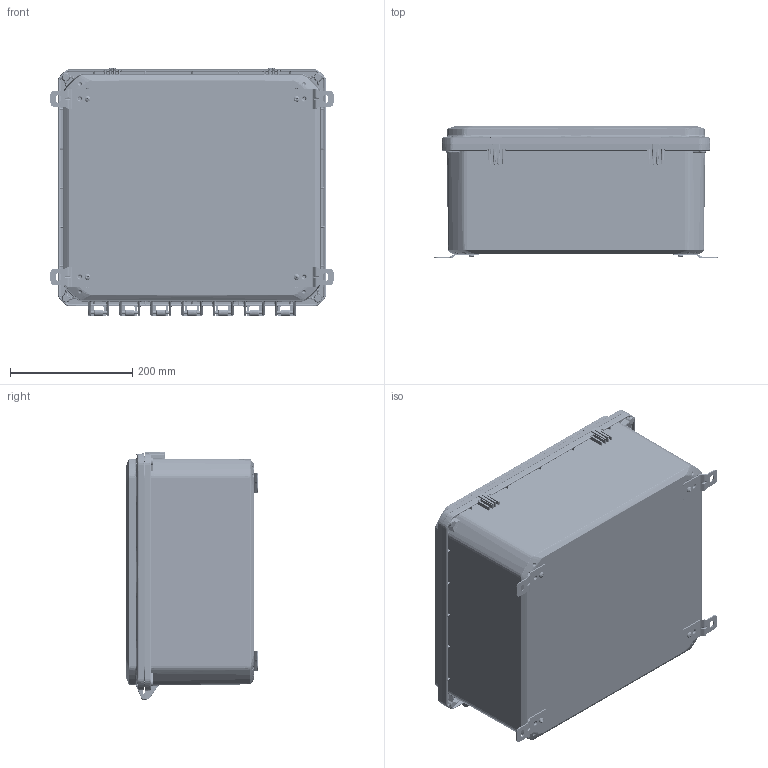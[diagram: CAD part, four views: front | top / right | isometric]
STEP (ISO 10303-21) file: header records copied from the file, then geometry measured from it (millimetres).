
FILE_DESCRIPTION (( 'STEP AP214' ), '1' );
FILE_NAME ('ZH-161407-45.STEP', '2024-06-17T12:10:43', ( '' ), ( '' ), 'SwSTEP 2.0', 'SolidWorks 2024', '' );
FILE_SCHEMA (( 'AUTOMOTIVE_DESIGN' ));
Length unit declared in the file: inch
Products named in the file (11): Z_-16147BI_ZH-16147BI-01; SCREWS-049_SCREWS-049; LABEL-104; Z_-16147B_ZH-16147B-01; ZH-91F-01_ZH-91F-01; ZH-1614G; SCREWS-047_default; Z_-16141CG_ZH-16141CG-02; ZH-161407-45; INSERTS-4; Z_-16141C_ZH-16141C-02
Assembly tree (30 placements, depth 3):
  ZH-161407-45
    Z_-16147BI_ZH-16147BI-01
      Z_-16147B_ZH-16147B-01
      INSERTS-4  x12
      LABEL-104
    Z_-16141CG_ZH-16141CG-02
      Z_-16141C_ZH-16141C-02
      ZH-1614G
    SCREWS-047_default  x4
    SCREWS-049_SCREWS-049  x4
    ZH-91F-01_ZH-91F-01  x4
Bounding box: 462.39 x 216.7 x 406.27 mm (x, y, z)
Volume: 3146790.2 mm3; surface area: 1472179.9 mm2
Topology: 28 solids, 28 shells, 7287 faces, 17819 edges, 10602 vertices
Faces by surface type: bspline 1872, cylinder 1863, plane 1674, cone 896, torus 780, sphere 202
Entity records: 289976 total; most frequent: CARTESIAN_POINT 169941, ORIENTED_EDGE 27552, DIRECTION 22539, EDGE_CURVE 13776, AXIS2_PLACEMENT_3D 9269, VERTEX_POINT 8074, EDGE_LOOP 6054, FACE_OUTER_BOUND 5864
